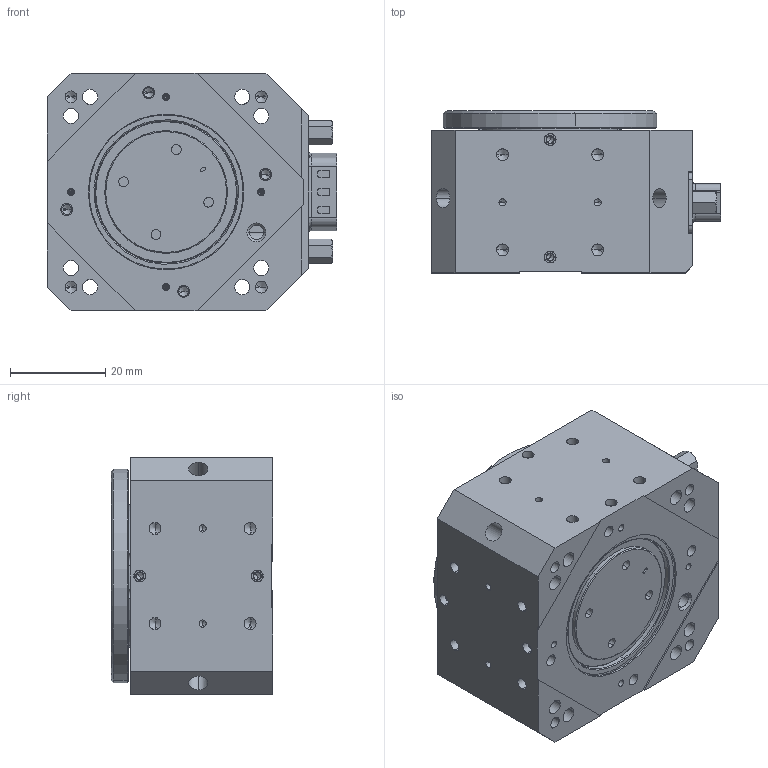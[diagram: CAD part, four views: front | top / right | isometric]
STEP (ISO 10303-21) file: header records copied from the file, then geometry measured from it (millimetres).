
FILE_DESCRIPTION (( 'STEP AP214' ), '1' );
FILE_NAME ('PR-50-21000.STEP', '2015-02-17T21:49:19', ( '' ), ( '' ), 'SwSTEP 2.0', 'SolidWorks 2014', '' );
FILE_SCHEMA (( 'AUTOMOTIVE_DESIGN' ));
Length unit declared in the file: millimetre
Products named in the file (9): 430648 PR-50, Carriage; 430647 PR-50, Base; 37x30x4 Bearing; Set Screw, Cup-H, M-DIN_M3 x 0.5 x 05mm; 430649 PR-50, Bearing Adapter; 130008 D-sub Standoff; PR-50-21000; SD9P; SCREW, SHCS-S, M-DIN_M2.5 x 0.45 x 04mm
Assembly tree (23 placements, depth 2):
  PR-50-21000
    Set Screw, Cup-H, M-DIN_M3 x 0.5 x 05mm  x12
    430648 PR-50, Carriage
    SCREW, SHCS-S, M-DIN_M2.5 x 0.45 x 04mm  x4
    130008 D-sub Standoff  x2
    430649 PR-50, Bearing Adapter
    37x30x4 Bearing
    430647 PR-50, Base
    SD9P
Bounding box: 60.88 x 34.05 x 50 mm (x, y, z)
Volume: 50996.8 mm3; surface area: 29566.3 mm2
Topology: 23 solids, 23 shells, 2079 faces, 4708 edges, 2642 vertices
Faces by surface type: cylinder 818, cone 743, plane 440, torus 40, bspline 38
Entity records: 31363 total; most frequent: CARTESIAN_POINT 7700, DIRECTION 4456, ORIENTED_EDGE 4154, EDGE_CURVE 2077, AXIS2_PLACEMENT_3D 1711, VERTEX_POINT 1307, EDGE_LOOP 1056, LINE 1034
